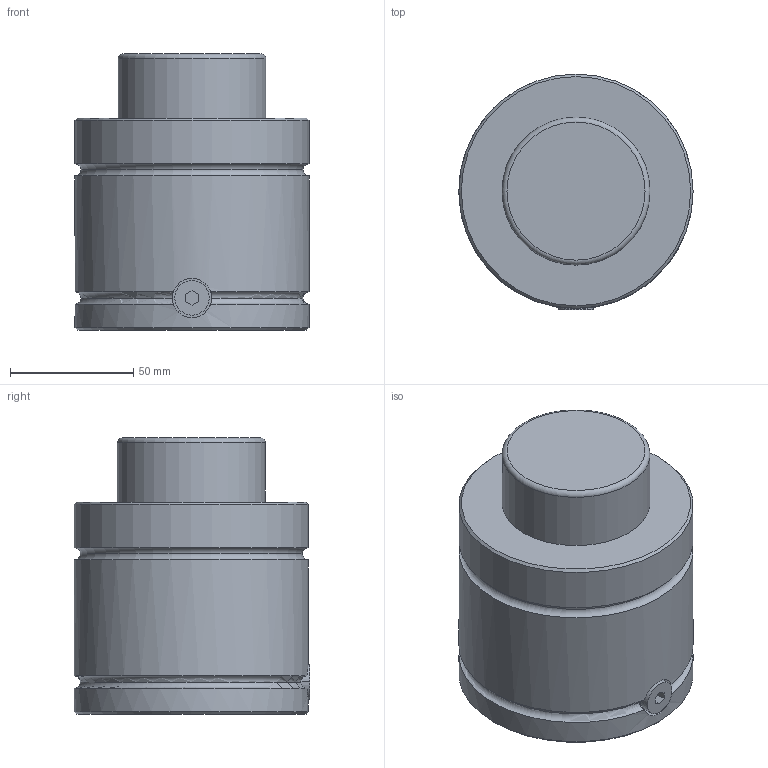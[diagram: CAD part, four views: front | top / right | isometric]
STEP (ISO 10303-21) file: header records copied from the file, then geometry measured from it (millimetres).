
FILE_DESCRIPTION(('FreeCAD Model'),'2;1');
FILE_NAME('Open CASCADE Shape Model','2024-11-13T17:20:16',('Author'),( ''),'Open CASCADE STEP processor 7.6','FreeCAD','Unknown');
FILE_SCHEMA(('AUTOMOTIVE_DESIGN { 1 0 10303 214 1 1 1 1 }'));
Length unit declared in the file: millimetre
Products named in the file (2): Part013; Cut
Assembly tree (1 placements, depth 2):
  Part013
    Cut
Bounding box: 95 x 95.5 x 112 mm (x, y, z)
Volume: 671854.9 mm3; surface area: 54132.2 mm2
Topology: 3 solids, 3 shells, 43 faces, 81 edges, 50 vertices
Faces by surface type: plane 19, cylinder 13, torus 7, cone 4
Full cylindrical faces by diameter (mm): 12 x4, 16 x1, 60 x1, 95 x3
Entity records: 1347 total; most frequent: CARTESIAN_POINT 402, DIRECTION 205, ORIENTED_EDGE 162, AXIS2_PLACEMENT_3D 85, EDGE_CURVE 81, VERTEX_POINT 50, FACE_BOUND 49, EDGE_LOOP 49
